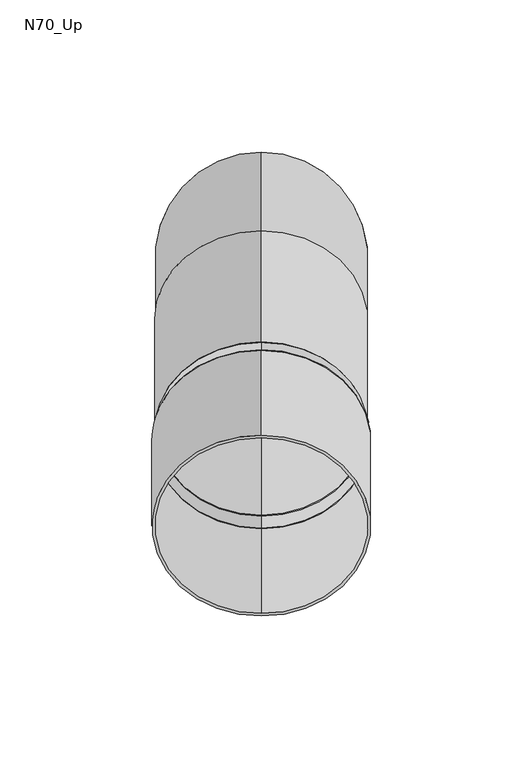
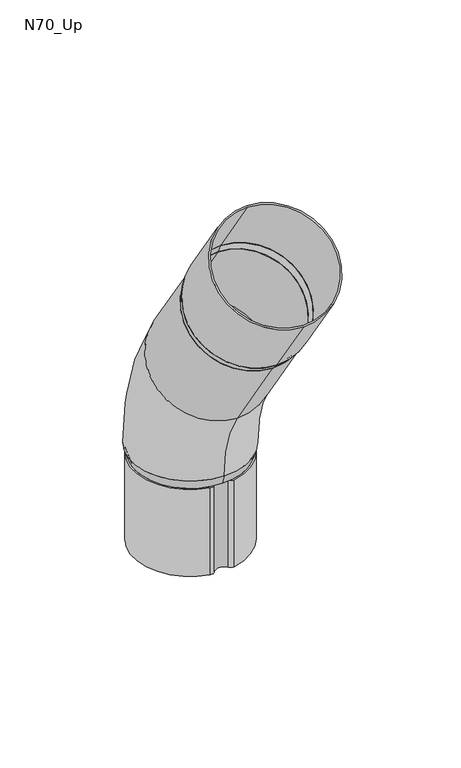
"""IFC4 building model written with IfcOpenShell, lengths in millimetres: proxy geometry, GROVIK_Downpipe_Adjustable offset : N70_Up."""

from ifc_helpers import new_model, si_unit, point, frame, frame_2d, origin, origin_2d, place, context, project, spatial, polyline, circle_curve, ellipse_curve, trimmed, segment, composite_curve, outline, extrude, source, transform, mapped, element, save
from ifc_brep_helpers import plane_surface, cylinder_surface, revolved_surface, advanced_brep


def n70_up_b8c6f2b9(model_context):
    return source(origin(), model_context, "Body", "SolidModel", [
        advanced_brep(
        [(0.0, 35.0, 0.0), (0.0, -35.0, 0.0), (0.0, 34.0, 0.0), (0.0, -34.0, 0.0), (0.0, -48.0303215, 45.5638251), (0.0, 8.1911371, 83.8149375), (0.0, -48.8571076, 45.0013087), (0.0, 9.0179232, 84.3774539), (0.0, -27.5456401, 138.1185539), (0.0, -85.420671, 98.7424088), (0.0, -28.3724263, 137.5560376), (0.0, -84.5938848, 99.3049252)],
        [
            (0, 1, circle_curve(frame((0.0, 0.0, 0.0), z_axis=(0.0, 0.0, -1.0), x_axis=(0.0, -1.0, 0.0)), 35.0)),
            (1, 0, circle_curve(frame((0.0, 0.0, 0.0), z_axis=(0.0, 0.0, -1.0), x_axis=(0.0, -1.0, 0.0)), 35.0)),
            (2, 3, circle_curve(frame((0.0, 0.0, 0.0), z_axis=(0.0, 0.0, 1.0), x_axis=(0.0, -1.0, 0.0)), 34.0)),
            (3, 2, circle_curve(frame((0.0, 0.0, 0.0), z_axis=(0.0, 0.0, 1.0), x_axis=(0.0, -1.0, 0.0)), 34.0)),
            (4, 3, circle_curve(frame((0.0, -115.0, 0.0), z_axis=(-1.0, 0.0, 0.0), x_axis=(0.0, 1.0, 0.0)), 81.0)),
            (2, 5, circle_curve(frame((0.0, -115.0, 0.0), z_axis=(1.0, 0.0, 0.0), x_axis=(0.0, 1.0, 0.0)), 149.0)),
            (5, 4, circle_curve(frame((0.0, -19.9195922, 64.6893813), z_axis=(0.0, -0.5625163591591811, 0.8267861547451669), x_axis=(0.0, -0.8267861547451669, -0.5625163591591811)), 34.0)),
            (4, 5, circle_curve(frame((0.0, -19.9195922, 64.6893813), z_axis=(0.0, -0.5625163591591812, 0.8267861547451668), x_axis=(0.0, -0.8267861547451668, -0.5625163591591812)), 34.0)),
            (6, 1, circle_curve(frame((0.0, -115.0, 0.0), z_axis=(-1.0, 0.0, 0.0), x_axis=(0.0, 1.0, 0.0)), 80.0)),
            (0, 7, circle_curve(frame((0.0, -115.0, 0.0), z_axis=(1.0, 0.0, 0.0), x_axis=(0.0, 1.0, 0.0)), 150.0)),
            (7, 6, circle_curve(frame((0.0, -19.9195922, 64.6893813), z_axis=(0.0, 0.5625163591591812, -0.8267861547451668), x_axis=(0.0, -0.8267861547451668, -0.5625163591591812)), 35.0)),
            (6, 7, circle_curve(frame((0.0, -19.9195922, 64.6893813), z_axis=(0.0, 0.5625163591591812, -0.8267861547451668), x_axis=(0.0, -0.8267861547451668, -0.5625163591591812)), 35.0)),
            (8, 9, circle_curve(frame((0.0, -56.4831555, 118.4304814), z_axis=(0.0, -0.5625163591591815, 0.8267861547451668), x_axis=(0.0, -0.8267861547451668, -0.5625163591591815)), 35.0)),
            (9, 8, circle_curve(frame((0.0, -56.4831555, 118.4304814), z_axis=(0.0, -0.5625163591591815, 0.8267861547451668), x_axis=(0.0, -0.8267861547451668, -0.5625163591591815)), 35.0)),
            (10, 11, circle_curve(frame((0.0, -56.4831555, 118.4304814), z_axis=(0.0, 0.5625163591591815, -0.8267861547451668), x_axis=(0.0, -0.8267861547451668, -0.5625163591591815)), 34.0)),
            (11, 10, circle_curve(frame((0.0, -56.4831555, 118.4304814), z_axis=(0.0, 0.5625163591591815, -0.8267861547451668), x_axis=(0.0, -0.8267861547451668, -0.5625163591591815)), 34.0)),
            (5, 10),
            (11, 4),
            (7, 8),
            (9, 6),
        ],
        [
            plane_surface(frame((0.0, 0.0, 0.0), z_axis=(0.0, 0.0, -1.0), x_axis=(1.0, 0.0, 0.0))),
            revolved_surface(trimmed(ellipse_curve(frame((0.0, 0.0, 0.0), z_axis=(0.0, 0.0, 1.0), x_axis=(0.0, -1.0, 0.0)), 34.0, 34.0), [point((0.0, 34.0, 0.0))], [point((0.0, -34.0, 0.0))], True, "CARTESIAN"), (0.0, -115.0, 0.0), (1.0, 0.0, 0.0)),
            revolved_surface(trimmed(ellipse_curve(frame((0.0, 0.0, 0.0), z_axis=(0.0, 0.0, 1.0), x_axis=(0.0, -1.0, 0.0)), 34.0, 34.0), [point((0.0, -34.0, 0.0))], [point((0.0, 34.0, 0.0))], True, "CARTESIAN"), (0.0, -115.0, 0.0), (1.0, 0.0, 0.0)),
            revolved_surface(trimmed(ellipse_curve(frame((0.0, 0.0, 0.0), z_axis=(0.0, 0.0, -1.0), x_axis=(0.0, -1.0, 0.0)), 35.0, 35.0), [point((0.0, 35.0, 0.0))], [point((0.0, -35.0, 0.0))], True, "CARTESIAN"), (0.0, -115.0, 0.0), (1.0, 0.0, 0.0)),
            revolved_surface(trimmed(ellipse_curve(frame((0.0, 0.0, 0.0), z_axis=(0.0, 0.0, -1.0), x_axis=(0.0, -1.0, 0.0)), 35.0, 35.0), [point((0.0, -35.0, 0.0))], [point((0.0, 35.0, 0.0))], True, "CARTESIAN"), (0.0, -115.0, 0.0), (1.0, 0.0, 0.0)),
            plane_surface(frame((0.0, -56.4831555, 118.4304814), z_axis=(0.0, -0.5625163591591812, 0.8267861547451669), x_axis=(1.0, 0.0, 0.0))),
            revolved_surface(polyline([(0.0, -84.59388482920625, 99.3049251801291), (0.0, -48.030321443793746, 45.56382506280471)]), (0.0, -19.9195922, 64.6893813), (0.0, -0.5625163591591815, 0.8267861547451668)),
            cylinder_surface(frame((0.0, -19.9195922, 64.6893813), z_axis=(0.0, 0.5625163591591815, -0.8267861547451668), x_axis=(0.0, -0.8267861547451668, -0.5625163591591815)), 35.0),
        ],
        [
            (0, [[1, 2], [3, 4]]),
            (1, [[5, -3, 6, 7]]),
            (2, [[-6, -4, -5, 8]]),
            (3, [[9, -1, 10, 11]]),
            (4, [[-10, -2, -9, 12]]),
            (5, [[13, 14], [15, 16]]),
            (6, [[-7, 17, -16, 18]]),
            (6, [[-8, -18, -15, -17]]),
            (7, [[-11, 19, -14, 20]]),
            (7, [[-12, -20, -13, -19]]),
        ],
    ),
        advanced_brep(
        [(0.0, 35.0, 0.0), (0.0, -35.0, 0.0), (0.0, -34.0, 0.0), (0.0, 34.0, 0.0), (0.0, 33.0, -6.0), (0.0, -33.0, -6.0), (0.0, 32.0, -6.0), (0.0, -32.0, -6.0)],
        [
            (0, 1, circle_curve(frame((0.0, 0.0, 0.0), z_axis=(0.0, 0.0, 1.0), x_axis=(0.0, 1.0, 0.0)), 35.0)),
            (1, 0, circle_curve(frame((0.0, 0.0, 0.0), z_axis=(0.0, 0.0, 1.0), x_axis=(0.0, -1.0, 0.0)), 35.0)),
            (2, 3, circle_curve(frame((0.0, 0.0, 0.0), z_axis=(0.0, 0.0, -1.0), x_axis=(0.0, 1.0, 0.0)), 34.0)),
            (3, 2, circle_curve(frame((0.0, 0.0, 0.0), z_axis=(0.0, 0.0, -1.0), x_axis=(0.0, -1.0, 0.0)), 34.0)),
            (4, 5, circle_curve(frame((0.0, 0.0, -6.0), z_axis=(0.0, 0.0, -1.0), x_axis=(0.0, -1.0, 0.0)), 33.0)),
            (5, 4, circle_curve(frame((0.0, 0.0, -6.0), z_axis=(0.0, 0.0, -1.0), x_axis=(0.0, 1.0, 0.0)), 33.0)),
            (6, 7, circle_curve(frame((0.0, 0.0, -6.0), z_axis=(0.0, 0.0, 1.0), x_axis=(0.0, 1.0, 0.0)), 32.0)),
            (7, 6, circle_curve(frame((0.0, 0.0, -6.0), z_axis=(0.0, 0.0, 1.0), x_axis=(0.0, -1.0, 0.0)), 32.0)),
            (0, 4),
            (5, 1),
            (6, 3),
            (2, 7),
        ],
        [
            plane_surface(frame((0.0, 0.0, 0.0), z_axis=(0.0, 0.0, 1.0), x_axis=(-1.0, 0.0, 0.0))),
            plane_surface(frame((0.0, 0.0, -6.0), z_axis=(0.0, 0.0, -1.0), x_axis=(-1.0, 0.0, 0.0))),
            revolved_surface(polyline([(0.0, -33.0, -6.0), (0.0, -35.0, 0.0)]), (0.0, 0.0, -105.0), (0.0, 0.0, 1.0)),
            revolved_surface(polyline([(0.0, 33.0, -6.0), (0.0, 35.0, 0.0)]), (0.0, 0.0, -105.0), (0.0, 0.0, 1.0)),
            revolved_surface(polyline([(0.0, 34.0, 0.0), (0.0, 32.0, -6.0)]), (0.0, 0.0, -102.0), (0.0, 0.0, 1.0)),
        ],
        [
            (0, [[1, 2], [3, 4]]),
            (1, [[5, 6], [7, 8]]),
            (2, [[-1, 9, -6, 10]]),
            (3, [[-2, -10, -5, -9]]),
            (4, [[11, -3, 12, -7]]),
            (4, [[-11, -8, -12, -4]]),
        ],
    ),
        advanced_brep(
        [(0.0, -30.0939521, 143.6417872), (0.0, -89.6225553, 103.1406094), (0.0, -88.7957691, 103.7031257), (0.0, -30.9207383, 143.0792709), (0.0, -27.5456401, 138.1185539), (0.0, -85.420671, 98.7424088), (0.0, -28.3724263, 137.5560376), (0.0, -84.5938848, 99.3049252)],
        [
            (0, 1, circle_curve(frame((0.0, -59.8582537, 123.3911983), z_axis=(0.0, -0.562516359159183, 0.8267861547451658), x_axis=(0.0, 0.8267861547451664, 0.5625163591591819)), 36.0)),
            (1, 0, circle_curve(frame((0.0, -59.8582537, 123.3911983), z_axis=(0.0, -0.562516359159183, 0.8267861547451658), x_axis=(0.0, -0.8267861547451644, -0.5625163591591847)), 36.0)),
            (2, 3, circle_curve(frame((0.0, -59.8582537, 123.3911983), z_axis=(0.0, 0.562516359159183, -0.8267861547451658), x_axis=(0.0, 0.8267861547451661, 0.5625163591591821)), 35.0)),
            (3, 2, circle_curve(frame((0.0, -59.8582537, 123.3911983), z_axis=(0.0, 0.562516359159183, -0.8267861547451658), x_axis=(0.0, -0.826786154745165, -0.5625163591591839)), 35.0)),
            (4, 5, circle_curve(frame((0.0, -56.4831555, 118.4304814), z_axis=(0.0, 0.562516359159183, -0.8267861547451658), x_axis=(0.0, -0.8267861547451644, -0.5625163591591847)), 35.0)),
            (5, 4, circle_curve(frame((0.0, -56.4831555, 118.4304814), z_axis=(0.0, 0.562516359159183, -0.8267861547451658), x_axis=(0.0, 0.8267861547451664, 0.5625163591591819)), 35.0)),
            (6, 7, circle_curve(frame((0.0, -56.4831555, 118.4304814), z_axis=(0.0, -0.562516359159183, 0.8267861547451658), x_axis=(0.0, 0.8267861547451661, 0.5625163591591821)), 34.0)),
            (7, 6, circle_curve(frame((0.0, -56.4831555, 118.4304814), z_axis=(0.0, -0.562516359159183, 0.8267861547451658), x_axis=(0.0, -0.826786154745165, -0.5625163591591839)), 34.0)),
            (0, 4),
            (5, 1),
            (6, 3),
            (2, 7),
        ],
        [
            plane_surface(frame((0.0, -59.8582537, 123.3911983), z_axis=(0.0, -0.5625163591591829, 0.8267861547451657), x_axis=(-1.0, 0.0, 0.0))),
            plane_surface(frame((0.0, -56.4831555, 118.4304814), z_axis=(0.0, 0.562516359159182, -0.8267861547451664), x_axis=(-1.0, 0.0, 0.0))),
            revolved_surface(polyline([(0.0, -85.42067092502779, 98.74240876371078), (0.0, -89.62255530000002, 103.14060939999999)]), (0.0, 61.6452799, -55.1946111), (0.0, -0.562516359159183, 0.8267861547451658)),
            revolved_surface(polyline([(0.0, -27.5456400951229, 138.11855390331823), (0.0, -30.093952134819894, 143.64178727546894)]), (0.0, 61.6452799, -55.1946111), (0.0, -0.562516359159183, 0.8267861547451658)),
            revolved_surface(polyline([(0.0, -30.920738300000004, 143.0792709), (0.0, -28.372426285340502, 137.55603757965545)]), (0.0, 58.2701817, -50.2338942), (0.0, -0.562516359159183, 0.8267861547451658)),
        ],
        [
            (0, [[1, 2], [3, 4]]),
            (1, [[5, 6], [7, 8]]),
            (2, [[-1, 9, -6, 10]]),
            (3, [[-2, -10, -5, -9]]),
            (4, [[11, -3, 12, -7]]),
            (4, [[-11, -8, -12, -4]]),
        ],
    ),
        extrude(outline(composite_curve([segment(trimmed(circle_curve(frame_2d((-6.6504209, 30.1934466)), 3.0848069), [point((-7.2, 33.2289031))], [point((-4.2037022, 32.0721698))], False, "CARTESIAN"), True, "CONTINUOUS"), segment(trimmed(circle_curve(frame_2d((0.0, 35.3)), 5.3), [point((-4.2037022, 32.0721698))], [point((4.2058428, 32.0749594))], True, "CARTESIAN"), True, "CONTINUOUS"), segment(trimmed(circle_curve(frame_2d((6.6465812, 30.203401)), 3.0757007), [point((4.2058428, 32.0749594))], [point((7.2, 33.2289031))], False, "CARTESIAN"), True, "CONTINUOUS"), segment(trimmed(circle_curve(origin_2d(), 34.0), [point((7.2, 33.2289031))], [point((7.2, -33.2289031))], False, "CARTESIAN"), True, "CONTINUOUS"), segment(trimmed(circle_curve(frame_2d((6.6465812, -30.203401)), 3.0757007), [point((7.2, -33.2289031))], [point((4.2058428, -32.0749594))], False, "CARTESIAN"), True, "CONTINUOUS"), segment(trimmed(circle_curve(frame_2d((0.0, -35.3)), 5.3), [point((4.2058428, -32.0749594))], [point((-4.2037022, -32.0721698))], True, "CARTESIAN"), True, "CONTINUOUS"), segment(trimmed(circle_curve(frame_2d((-6.6504209, -30.1934466)), 3.0848069), [point((-4.2037022, -32.0721698))], [point((-7.2, -33.2289031))], False, "CARTESIAN"), True, "CONTINUOUS"), segment(trimmed(circle_curve(origin_2d(), 34.0), [point((-7.2, -33.2289031))], [point((-7.2, 33.2289031))], False, "CARTESIAN"), True, "CONTINUOUS")], self_intersect=False), holes=[composite_curve([segment(trimmed(circle_curve(origin_2d(), 33.0), [point((-7.1903364, 32.2071275))], [point((-7.1903364, -32.2071275))], True, "CARTESIAN"), True, "CONTINUOUS"), segment(trimmed(circle_curve(frame_2d((-6.6504209, -30.1934466)), 2.0848069), [point((-7.1903364, -32.2071275))], [point((-4.9968535, -31.4631452))], True, "CARTESIAN"), True, "CONTINUOUS"), segment(trimmed(circle_curve(frame_2d((0.0, -35.3)), 6.3), [point((-4.9968535, -31.4631452))], [point((4.999398, -31.4664612))], False, "CARTESIAN"), True, "CONTINUOUS"), segment(trimmed(circle_curve(frame_2d((6.6465812, -30.203401)), 2.0757007), [point((4.999398, -31.4664612))], [point((7.1790209, -32.2096516))], True, "CARTESIAN"), True, "CONTINUOUS"), segment(trimmed(circle_curve(origin_2d(), 33.0), [point((7.1790209, -32.2096516))], [point((7.1790209, 32.2096516))], True, "CARTESIAN"), True, "CONTINUOUS"), segment(trimmed(circle_curve(frame_2d((6.6465812, 30.203401)), 2.0757007), [point((7.1790209, 32.2096516))], [point((4.999398, 31.4664612))], True, "CARTESIAN"), True, "CONTINUOUS"), segment(trimmed(circle_curve(frame_2d((0.0, 35.3)), 6.3), [point((4.999398, 31.4664612))], [point((-4.9968535, 31.4631452))], False, "CARTESIAN"), True, "CONTINUOUS"), segment(trimmed(circle_curve(frame_2d((-6.6504209, 30.1934466)), 2.0848069), [point((-4.9968535, 31.4631452))], [point((-7.1903364, 32.2071275))], True, "CARTESIAN"), True, "CONTINUOUS")], self_intersect=False)]), frame((0.0, 0.0, -61.0), z_axis=(0.0, 0.0, 1.0), x_axis=(1.0, 0.0, 0.0)), (0.0, 0.0, 1.0), 55.0),
        extrude(outline(composite_curve([segment(trimmed(circle_curve(origin_2d(), 36.0), [point((0.0, 36.0))], [point((0.0, -36.0))], False, "CARTESIAN"), True, "CONTINUOUS"), segment(trimmed(circle_curve(origin_2d(), 36.0), [point((0.0, -36.0))], [point((0.0, 36.0))], False, "CARTESIAN"), True, "CONTINUOUS")], self_intersect=False), holes=[composite_curve([segment(trimmed(circle_curve(origin_2d(), 35.0), [point((0.0, 35.0))], [point((0.0, -35.0))], True, "CARTESIAN"), True, "CONTINUOUS"), segment(trimmed(circle_curve(origin_2d(), 35.0), [point((0.0, -35.0))], [point((0.0, 35.0))], True, "CARTESIAN"), True, "CONTINUOUS")], self_intersect=False)]), frame((0.0, -59.8582537, 123.3911983), z_axis=(0.0, -0.5625163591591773, 0.8267861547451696), x_axis=(1.0, 0.0, 0.0)), (0.0, 0.0, 1.0), 50.0),
    ])


if __name__ == "__main__":
    model = new_model("IFC4")
    model_context = context("Model", 3, world=origin())
    ifc_project = project(units=[si_unit("LENGTHUNIT", "METRE", prefix="MILLI")], contexts=[model_context])
    site = spatial("IfcSite", under=ifc_project)
    building = spatial("IfcBuilding", under=site)
    placement = place(None, origin())
    n70_up_shape = n70_up_b8c6f2b9(model_context)
    element("IfcBuildingElementProxy", 1, Name="GROVIK_Downpipe_Adjustable offset : N70_Up", ObjectType="GROVIK_Downpipe_Adjustable offset : N70_Up", at=placement, inside=building, context=model_context, shape_type="MappedRepresentation", body=[
        mapped(n70_up_shape, transform((0.0, 0.0, 0.0), x_axis=(1.0, 0.0, 0.0), y_axis=(0.0, 1.0, 0.0), z_axis=(0.0, 0.0, 1.0))),
    ])
    save(model, "model.ifc")
